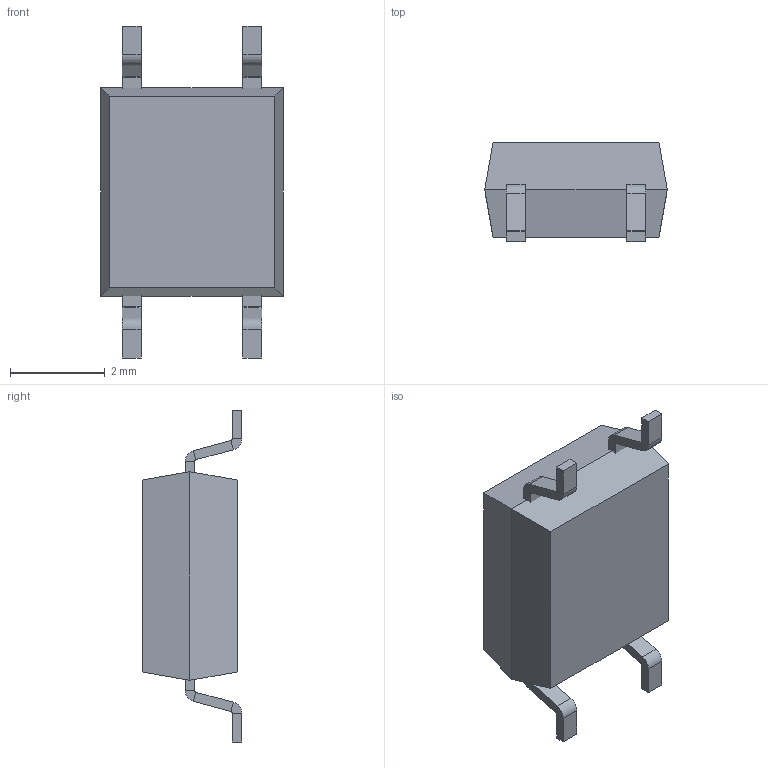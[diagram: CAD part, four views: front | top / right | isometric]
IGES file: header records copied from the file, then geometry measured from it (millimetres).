
Start section: SolidWorks IGES file using analytic representation for surfaces
Global section: file name: C:\Users\David\Dropbox\Jose Espina\Component Packages\SOP-4\SOP-4V1.IGS; native system: SolidWorks 2015; preprocessor: SolidWorks 2015; author: David; date: 151212.140920; units: millimetre
Bounding box: 3.85 x 2.09 x 7 mm (x, y, z)
Volume: 33.9 mm3; surface area: 95.8 mm2
Topology: 2 solids, 2 shells, 91 faces, 198 edges, 104 vertices
Faces by surface type: plane 73, revolution 18
